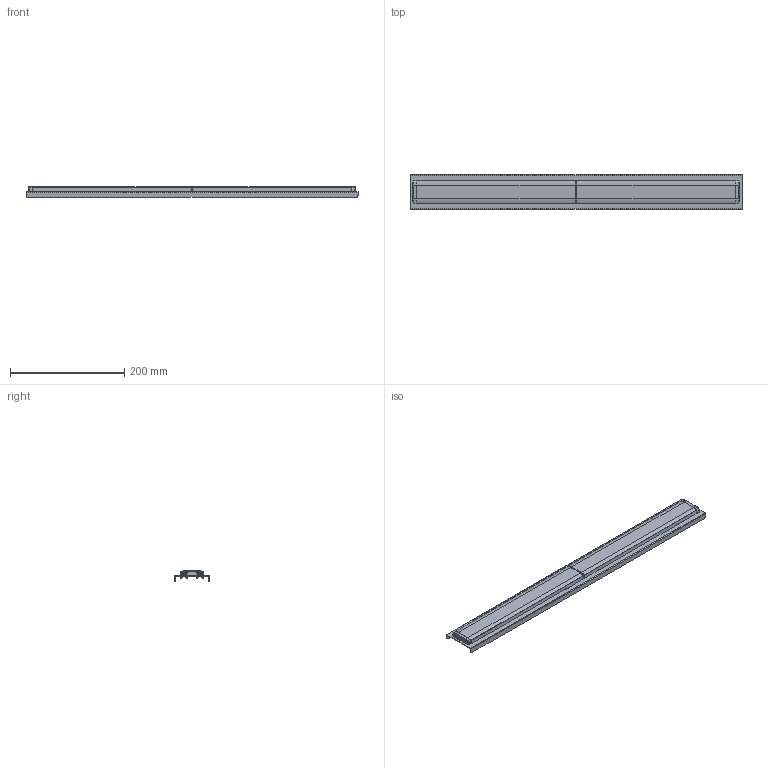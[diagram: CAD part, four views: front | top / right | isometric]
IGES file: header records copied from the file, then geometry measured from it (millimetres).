
Global section: file name: C:\CoreTechnologie\3D-In/022YM00Y0G.igs; native system: CT CoreTechnologie 3D Evolution; preprocessor: 2006; date: 1200022.111432; units: millimetre
Bounding box: 580 x 60 x 18.4 mm (x, y, z)
Volume: 119462.4 mm3; surface area: 160624.1 mm2
Topology: 5 solids, 5 shells, 2506 faces, 6574 edges, 4030 vertices
Faces by surface type: revolution 1390, plane 764, bspline 352
